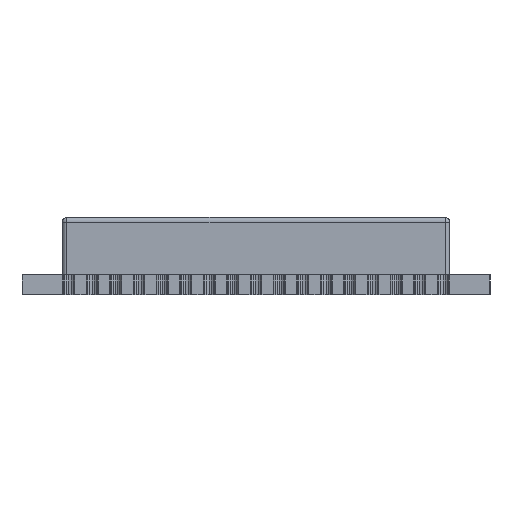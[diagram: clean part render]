
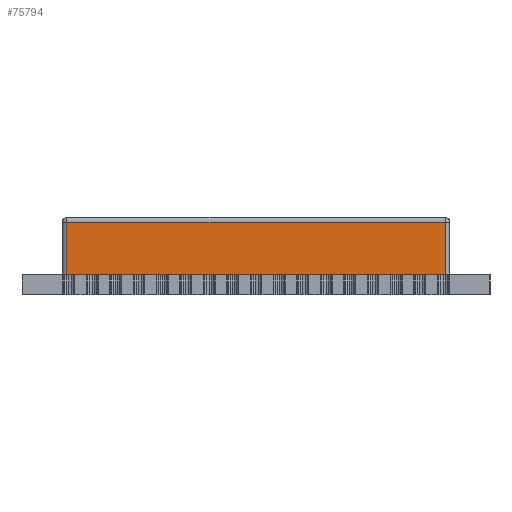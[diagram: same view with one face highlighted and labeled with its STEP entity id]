
A CAD part, left-side view. The second image highlights one B-rep face of the part: STEP entity #75794.
In plain terms, the highlighted planar face has unit normal (-1, 0, 0).
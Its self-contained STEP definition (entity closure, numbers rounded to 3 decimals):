
#63190=DIRECTION('',(0.,-1.,0.));
#63191=VECTOR('',#63190,16.171);
#63192=CARTESIAN_POINT('',(1.557,18.084,0.));
#63193=LINE('',#63192,#63191);
#67632=DIRECTION('',(0.,-1.,0.));
#67633=VECTOR('',#67632,16.171);
#67634=CARTESIAN_POINT('',(1.557,18.084,2.25));
#67635=LINE('',#67634,#67633);
#67636=DIRECTION('',(0.,0.,-1.));
#67637=VECTOR('',#67636,2.25);
#67638=CARTESIAN_POINT('',(1.557,1.912,2.25));
#67639=LINE('',#67638,#67637);
#67640=DIRECTION('',(0.,0.,-1.));
#67641=VECTOR('',#67640,2.25);
#67642=CARTESIAN_POINT('',(1.557,18.084,2.25));
#67643=LINE('',#67642,#67641);
#69195=CARTESIAN_POINT('',(1.557,1.912,0.));
#69197=VERTEX_POINT('',#69195);
#69206=CARTESIAN_POINT('',(1.557,18.084,0.));
#69208=VERTEX_POINT('',#69206);
#69226=CARTESIAN_POINT('',(1.557,18.084,2.25));
#69227=VERTEX_POINT('',#69226);
#69230=CARTESIAN_POINT('',(1.557,1.912,2.25));
#69231=VERTEX_POINT('',#69230);
#75781=CARTESIAN_POINT('',(1.557,18.284,0.));
#75782=DIRECTION('',(-1.,0.,0.));
#75783=DIRECTION('',(0.,-1.,0.));
#75784=AXIS2_PLACEMENT_3D('',#75781,#75782,#75783);
#75785=PLANE('',#75784);
#75787=ORIENTED_EDGE('',*,*,#75786,.T.);
#75789=ORIENTED_EDGE('',*,*,#75788,.T.);
#75790=ORIENTED_EDGE('',*,*,#69253,.F.);
#75791=ORIENTED_EDGE('',*,*,#75774,.F.);
#75792=EDGE_LOOP('',(#75787,#75789,#75790,#75791));
#75793=FACE_OUTER_BOUND('',#75792,.F.);
#75794=ADVANCED_FACE('',(#75793),#75785,.T.);
#69253=EDGE_CURVE('',#69208,#69197,#63193,.T.);
#75774=EDGE_CURVE('',#69227,#69208,#67643,.T.);
#75786=EDGE_CURVE('',#69227,#69231,#67635,.T.);
#75788=EDGE_CURVE('',#69231,#69197,#67639,.T.);
